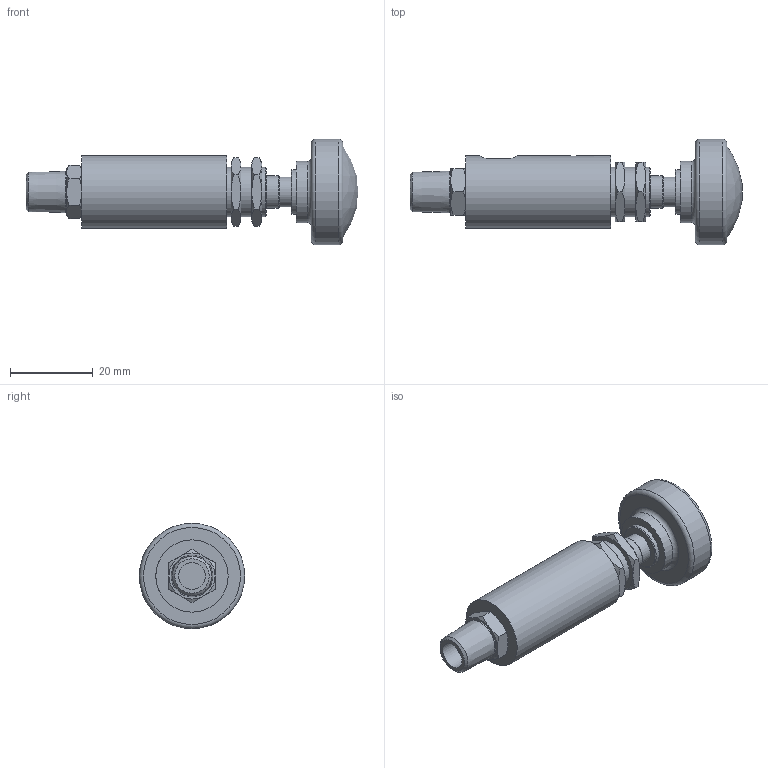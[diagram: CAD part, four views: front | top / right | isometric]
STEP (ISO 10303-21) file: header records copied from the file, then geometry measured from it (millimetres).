
FILE_DESCRIPTION(/* description */ (''),/* implementation_level */ '2;1');
FILE_NAME(/* name */ 'U:/AirCom-Produktdokumentation/Druckregler/MAR/Zeichnungen/CAD-Aircom/3D/B-MAR-1Px.step',/* time_stamp */ '2022-06-08T09:05:59+02:00',/* author */ (''),/* organization */ (''),/* preprocessor_version */ 'ST-DEVELOPER v19',/* originating_system */ 'Autodesk Translation Framework v11.7.0.108',/* authorisation */ '');
FILE_SCHEMA (('AUTOMOTIVE_DESIGN { 1 0 10303 214 3 1 1 }'));
Length unit declared in the file: millimetre
Products named in the file (5): (Nicht gespeichert); pressure_regulator_mar-1p-2; pressure_regulator_mar-1p-2_1; pressure_regulator_mar-1p-2_2; pressure_regulator_mar-1p-2_3
Assembly tree (4 placements, depth 3):
  (Nicht gespeichert)
    pressure_regulator_mar-1p-2
      pressure_regulator_mar-1p-2_1
      pressure_regulator_mar-1p-2_2
      pressure_regulator_mar-1p-2_3
Bounding box: 80.02 x 25.4 x 25.4 mm (x, y, z)
Volume: 15892.5 mm3; surface area: 6124.3 mm2
Topology: 3 solids, 3 shells, 109 faces, 215 edges, 129 vertices
Faces by surface type: cone 45, plane 40, cylinder 19, torus 4, sphere 1
Full cylindrical faces by diameter (mm): 2 x1, 3.962 x1, 6.5 x3, 7.16 x1, 7.92 x1, 8.566 x2, 10.049 x1, 10.8 x1, 11.413 x2, 11.9 x1, 14.8 x1, 17.4 x1, 25.4 x1
Entity records: 3034 total; most frequent: CARTESIAN_POINT 667, DIRECTION 468, ORIENTED_EDGE 430, EDGE_CURVE 215, AXIS2_PLACEMENT_3D 211, EDGE_LOOP 130, VERTEX_POINT 129, STYLED_ITEM 112
